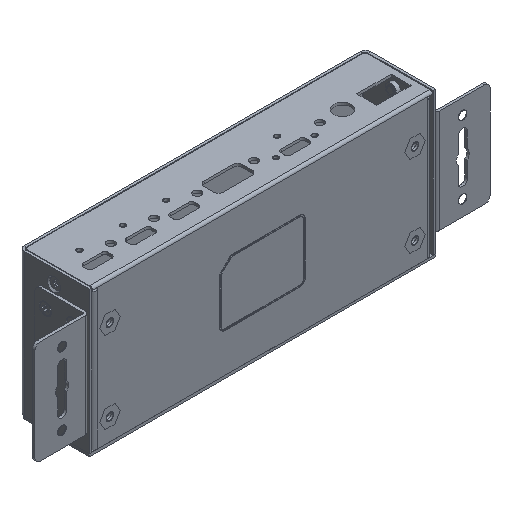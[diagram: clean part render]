
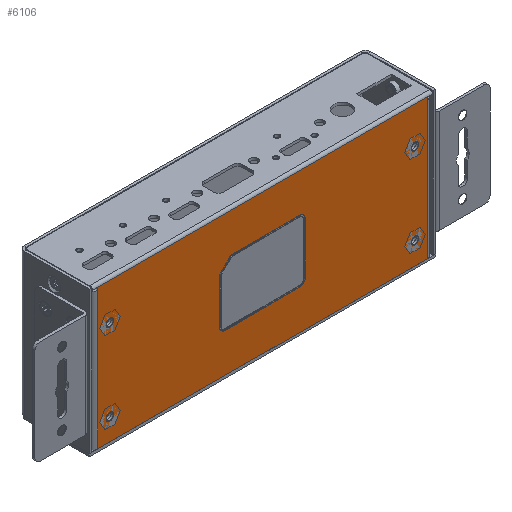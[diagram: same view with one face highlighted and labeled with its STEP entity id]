
A CAD part, isometric view. The second image highlights one B-rep face of the part: STEP entity #6106.
In plain terms, the highlighted planar face has unit normal (0, -1, 0).
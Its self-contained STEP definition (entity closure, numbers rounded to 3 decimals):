
#431=FACE_BOUND('',#1473,.T.);
#432=FACE_BOUND('',#1474,.T.);
#433=FACE_BOUND('',#1475,.T.);
#434=FACE_BOUND('',#1476,.T.);
#435=FACE_BOUND('',#1477,.T.);
#594=CIRCLE('',#6584,0.5);
#595=CIRCLE('',#6585,0.5);
#596=CIRCLE('',#6586,1.5);
#597=CIRCLE('',#6587,1.5);
#598=CIRCLE('',#6588,1.5);
#599=CIRCLE('',#6589,1.5);
#600=CIRCLE('',#6590,2.);
#601=CIRCLE('',#6591,2.);
#602=CIRCLE('',#6592,2.);
#1112=FACE_OUTER_BOUND('',#1472,.T.);
#1472=EDGE_LOOP('',(#4524,#4525,#4526,#4527,#4528,#4529));
#1473=EDGE_LOOP('',(#4530));
#1474=EDGE_LOOP('',(#4531));
#1475=EDGE_LOOP('',(#4532));
#1476=EDGE_LOOP('',(#4533));
#1477=EDGE_LOOP('',(#4534,#4535,#4536,#4537,#4538,#4539,#4540,#4541));
#1911=LINE('',#9752,#2403);
#1912=LINE('',#9756,#2404);
#1913=LINE('',#9760,#2405);
#1914=LINE('',#9761,#2406);
#1915=LINE('',#9772,#2407);
#1916=LINE('',#9774,#2408);
#1917=LINE('',#9776,#2409);
#1918=LINE('',#9780,#2410);
#1919=LINE('',#9784,#2411);
#2403=VECTOR('',#7462,53.7);
#2404=VECTOR('',#7465,128.5);
#2405=VECTOR('',#7468,53.7);
#2406=VECTOR('',#7469,127.5);
#2407=VECTOR('',#7478,17.48);
#2408=VECTOR('',#7479,6.392);
#2409=VECTOR('',#7480,26.48);
#2410=VECTOR('',#7483,20.);
#2411=VECTOR('',#7486,29.);
#2904=VERTEX_POINT('',#9750);
#2905=VERTEX_POINT('',#9751);
#2906=VERTEX_POINT('',#9753);
#2907=VERTEX_POINT('',#9755);
#2908=VERTEX_POINT('',#9757);
#2909=VERTEX_POINT('',#9759);
#2910=VERTEX_POINT('',#9762);
#2911=VERTEX_POINT('',#9764);
#2912=VERTEX_POINT('',#9766);
#2913=VERTEX_POINT('',#9768);
#2914=VERTEX_POINT('',#9770);
#2915=VERTEX_POINT('',#9771);
#2916=VERTEX_POINT('',#9773);
#2917=VERTEX_POINT('',#9775);
#2918=VERTEX_POINT('',#9777);
#2919=VERTEX_POINT('',#9779);
#2920=VERTEX_POINT('',#9781);
#2921=VERTEX_POINT('',#9783);
#3517=EDGE_CURVE('',#2904,#2905,#1911,.T.);
#3518=EDGE_CURVE('',#2906,#2905,#594,.T.);
#3519=EDGE_CURVE('',#2907,#2906,#1912,.T.);
#3520=EDGE_CURVE('',#2907,#2908,#595,.T.);
#3521=EDGE_CURVE('',#2908,#2909,#1913,.T.);
#3522=EDGE_CURVE('',#2904,#2909,#1914,.T.);
#3523=EDGE_CURVE('',#2910,#2910,#596,.T.);
#3524=EDGE_CURVE('',#2911,#2911,#597,.T.);
#3525=EDGE_CURVE('',#2912,#2912,#598,.T.);
#3526=EDGE_CURVE('',#2913,#2913,#599,.T.);
#3527=EDGE_CURVE('',#2914,#2915,#1915,.T.);
#3528=EDGE_CURVE('',#2916,#2914,#1916,.T.);
#3529=EDGE_CURVE('',#2917,#2916,#1917,.T.);
#3530=EDGE_CURVE('',#2918,#2917,#600,.T.);
#3531=EDGE_CURVE('',#2919,#2918,#1918,.T.);
#3532=EDGE_CURVE('',#2920,#2919,#601,.T.);
#3533=EDGE_CURVE('',#2921,#2920,#1919,.T.);
#3534=EDGE_CURVE('',#2915,#2921,#602,.T.);
#4524=ORIENTED_EDGE('',*,*,#3517,.T.);
#4525=ORIENTED_EDGE('',*,*,#3518,.F.);
#4526=ORIENTED_EDGE('',*,*,#3519,.F.);
#4527=ORIENTED_EDGE('',*,*,#3520,.T.);
#4528=ORIENTED_EDGE('',*,*,#3521,.T.);
#4529=ORIENTED_EDGE('',*,*,#3522,.F.);
#4530=ORIENTED_EDGE('',*,*,#3523,.T.);
#4531=ORIENTED_EDGE('',*,*,#3524,.T.);
#4532=ORIENTED_EDGE('',*,*,#3525,.T.);
#4533=ORIENTED_EDGE('',*,*,#3526,.T.);
#4534=ORIENTED_EDGE('',*,*,#3527,.F.);
#4535=ORIENTED_EDGE('',*,*,#3528,.F.);
#4536=ORIENTED_EDGE('',*,*,#3529,.F.);
#4537=ORIENTED_EDGE('',*,*,#3530,.F.);
#4538=ORIENTED_EDGE('',*,*,#3531,.F.);
#4539=ORIENTED_EDGE('',*,*,#3532,.F.);
#4540=ORIENTED_EDGE('',*,*,#3533,.F.);
#4541=ORIENTED_EDGE('',*,*,#3534,.F.);
#5914=PLANE('',#6583);
#6106=ADVANCED_FACE('',(#1112,#431,#432,#433,#434,#435),#5914,.F.);
#6583=AXIS2_PLACEMENT_3D('',#9749,#7460,#7461);
#6584=AXIS2_PLACEMENT_3D('',#9754,#7463,#7464);
#6585=AXIS2_PLACEMENT_3D('',#9758,#7466,#7467);
#6586=AXIS2_PLACEMENT_3D('',#9763,#7470,#7471);
#6587=AXIS2_PLACEMENT_3D('',#9765,#7472,#7473);
#6588=AXIS2_PLACEMENT_3D('',#9767,#7474,#7475);
#6589=AXIS2_PLACEMENT_3D('',#9769,#7476,#7477);
#6590=AXIS2_PLACEMENT_3D('',#9778,#7481,#7482);
#6591=AXIS2_PLACEMENT_3D('',#9782,#7484,#7485);
#6592=AXIS2_PLACEMENT_3D('',#9785,#7487,#7488);
#7460=DIRECTION('center_axis',(0.,1.,0.));
#7461=DIRECTION('ref_axis',(1.,0.,0.));
#7462=DIRECTION('',(0.,0.,1.));
#7463=DIRECTION('center_axis',(0.,-1.,0.));
#7464=DIRECTION('ref_axis',(0.,0.,1.));
#7465=DIRECTION('',(1.,0.,0.));
#7466=DIRECTION('center_axis',(0.,1.,0.));
#7467=DIRECTION('ref_axis',(0.,0.,1.));
#7468=DIRECTION('',(0.,0.,-1.));
#7469=DIRECTION('',(-1.,0.,0.));
#7470=DIRECTION('center_axis',(0.,1.,0.));
#7471=DIRECTION('ref_axis',(-1.,0.,0.));
#7472=DIRECTION('center_axis',(0.,1.,0.));
#7473=DIRECTION('ref_axis',(-1.,0.,0.));
#7474=DIRECTION('center_axis',(0.,1.,0.));
#7475=DIRECTION('ref_axis',(-1.,0.,0.));
#7476=DIRECTION('center_axis',(0.,1.,0.));
#7477=DIRECTION('ref_axis',(-1.,0.,0.));
#7478=DIRECTION('',(0.,0.,-1.));
#7479=DIRECTION('',(-0.707,0.,-0.707));
#7480=DIRECTION('',(-1.,0.,0.));
#7481=DIRECTION('center_axis',(0.,-1.,0.));
#7482=DIRECTION('ref_axis',(1.,0.,0.));
#7483=DIRECTION('',(0.,0.,1.));
#7484=DIRECTION('center_axis',(0.,-1.,0.));
#7485=DIRECTION('ref_axis',(0.,0.,-1.));
#7486=DIRECTION('',(1.,0.,0.));
#7487=DIRECTION('center_axis',(0.,-1.,0.));
#7488=DIRECTION('ref_axis',(-1.,0.,0.));
#9749=CARTESIAN_POINT('Origin',(0.,0.,0.));
#9750=CARTESIAN_POINT('',(63.75,0.,-27.1));
#9751=CARTESIAN_POINT('',(63.75,0.,26.6));
#9752=CARTESIAN_POINT('',(63.75,0.,-27.1));
#9753=CARTESIAN_POINT('',(64.25,0.,27.1));
#9754=CARTESIAN_POINT('Origin',(64.25,0.,26.6));
#9755=CARTESIAN_POINT('',(-64.25,0.,27.1));
#9756=CARTESIAN_POINT('',(-64.25,0.,27.1));
#9757=CARTESIAN_POINT('',(-63.75,0.,26.6));
#9758=CARTESIAN_POINT('Origin',(-64.25,0.,26.6));
#9759=CARTESIAN_POINT('',(-63.75,0.,-27.1));
#9760=CARTESIAN_POINT('',(-63.75,0.,26.6));
#9761=CARTESIAN_POINT('',(63.75,0.,-27.1));
#9762=CARTESIAN_POINT('',(60.5,0.,12.9));
#9763=CARTESIAN_POINT('Origin',(59.,0.,12.9));
#9764=CARTESIAN_POINT('',(60.5,0.,-18.6));
#9765=CARTESIAN_POINT('Origin',(59.,0.,-18.6));
#9766=CARTESIAN_POINT('',(-57.5,0.,12.9));
#9767=CARTESIAN_POINT('Origin',(-59.,0.,12.9));
#9768=CARTESIAN_POINT('',(-57.5,0.,-18.6));
#9769=CARTESIAN_POINT('Origin',(-59.,0.,-18.6));
#9770=CARTESIAN_POINT('',(-16.5,0.,7.48));
#9771=CARTESIAN_POINT('',(-16.5,0.,-10.));
#9772=CARTESIAN_POINT('',(-16.5,0.,7.48));
#9773=CARTESIAN_POINT('',(-11.98,0.,12.));
#9774=CARTESIAN_POINT('',(-11.98,0.,12.));
#9775=CARTESIAN_POINT('',(14.5,0.,12.));
#9776=CARTESIAN_POINT('',(14.5,0.,12.));
#9777=CARTESIAN_POINT('',(16.5,0.,10.));
#9778=CARTESIAN_POINT('Origin',(14.5,0.,10.));
#9779=CARTESIAN_POINT('',(16.5,0.,-10.));
#9780=CARTESIAN_POINT('',(16.5,0.,-10.));
#9781=CARTESIAN_POINT('',(14.5,0.,-12.));
#9782=CARTESIAN_POINT('Origin',(14.5,0.,-10.));
#9783=CARTESIAN_POINT('',(-14.5,0.,-12.));
#9784=CARTESIAN_POINT('',(-14.5,0.,-12.));
#9785=CARTESIAN_POINT('Origin',(-14.5,0.,-10.));
